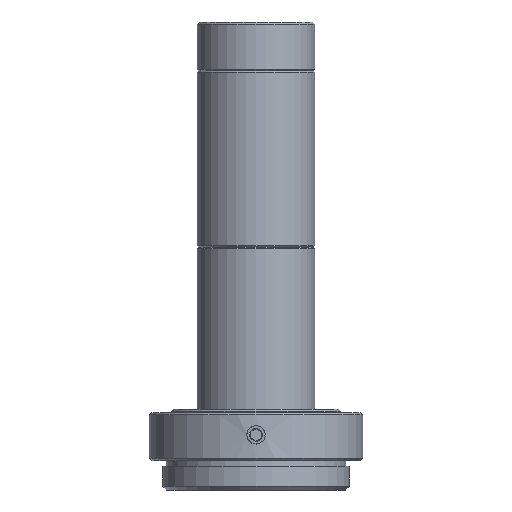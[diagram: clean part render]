
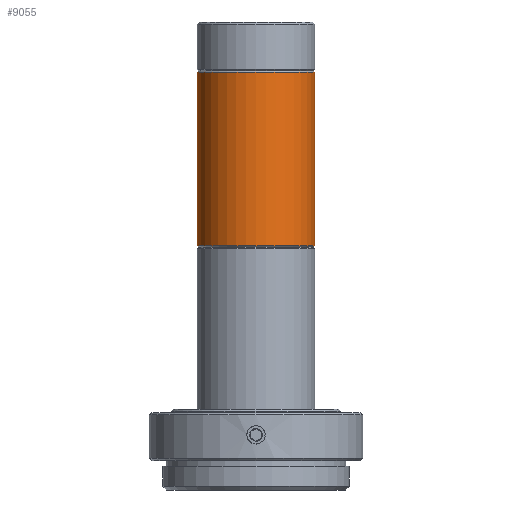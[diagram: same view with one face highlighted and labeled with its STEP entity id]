
A CAD part, front view. The second image highlights one B-rep face of the part: STEP entity #9055.
In plain terms, the highlighted cylindrical face has radius 8 mm (diameter 16 mm), a partial arc.
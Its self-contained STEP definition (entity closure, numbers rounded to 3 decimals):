
#464 = DIRECTION ( 'NONE',  ( 0., 0., -1. ) ) ;
#465 = CARTESIAN_POINT ( 'NONE',  ( -8., 0., 18.5 ) ) ;
#468 = LINE ( 'NONE', #465, #471 ) ;
#471 = VECTOR ( 'NONE', #464, 1000. ) ;
#970 = EDGE_CURVE ( 'NONE', #10849, #10796, #6759, .T. ) ;
#978 = EDGE_CURVE ( 'NONE', #10850, #10799, #6796, .T. ) ;
#5465 = CARTESIAN_POINT ( 'NONE',  ( 8., 0., 14.3 ) ) ;
#5651 = VECTOR ( 'NONE', #5711, 1000. ) ;
#5674 = CARTESIAN_POINT ( 'NONE',  ( -8., 0., -5.3 ) ) ;
#5694 = CARTESIAN_POINT ( 'NONE',  ( 8., 0., -5.3 ) ) ;
#5711 = DIRECTION ( 'NONE',  ( 0., 0., -1. ) ) ;
#5712 = CARTESIAN_POINT ( 'NONE',  ( 8., 0., 18.5 ) ) ;
#5721 = LINE ( 'NONE', #5712, #5651 ) ;
#6006 = CARTESIAN_POINT ( 'NONE',  ( -8., 0., 18.3 ) ) ;
#6013 = CARTESIAN_POINT ( 'NONE',  ( 8., 0., 18.3 ) ) ;
#6145 = CARTESIAN_POINT ( 'NONE',  ( -8., 0., 14.3 ) ) ;
#6190 = CARTESIAN_POINT ( 'NONE',  ( -8., 0., -1.3 ) ) ;
#6219 = CARTESIAN_POINT ( 'NONE',  ( 8., 0., -1.3 ) ) ;
#6741 = CARTESIAN_POINT ( 'NONE',  ( -8., 0., 18.5 ) ) ;
#6757 = DIRECTION ( 'NONE',  ( 0., 0., -1. ) ) ;
#6759 = LINE ( 'NONE', #6741, #6761 ) ;
#6761 = VECTOR ( 'NONE', #6757, 1000. ) ;
#6769 = DIRECTION ( 'NONE',  ( 0., 0., -1. ) ) ;
#6770 = VECTOR ( 'NONE', #6769, 1000. ) ;
#6771 = CARTESIAN_POINT ( 'NONE',  ( 8., 0., 18.5 ) ) ;
#6796 = LINE ( 'NONE', #6771, #6770 ) ;
#8961 = EDGE_CURVE ( 'NONE', #10804, #10803, #10978, .T. ) ;
#9000 = EDGE_CURVE ( 'NONE', #10796, #10799, #11038, .T. ) ;
#9003 = EDGE_CURVE ( 'NONE', #10816, #10850, #10581, .T. ) ;
#9007 = EDGE_CURVE ( 'NONE', #10849, #10814, #10602, .T. ) ;
#9035 = ORIENTED_EDGE ( 'NONE', *, *, #8961, .T. ) ;
#9036 = ORIENTED_EDGE ( 'NONE', *, *, #10791, .F. ) ;
#9046 = EDGE_LOOP ( 'NONE', ( #9036, #9035, #9057, #9069, #9059, #9047, #9056, #9065 ) ) ;
#9047 = ORIENTED_EDGE ( 'NONE', *, *, #9000, .T. ) ;
#9055 = ADVANCED_FACE ( 'NONE', ( #11137 ), #11122, .T. ) ;
#9056 = ORIENTED_EDGE ( 'NONE', *, *, #978, .F. ) ;
#9057 = ORIENTED_EDGE ( 'NONE', *, *, #10777, .T. ) ;
#9059 = ORIENTED_EDGE ( 'NONE', *, *, #970, .T. ) ;
#9065 = ORIENTED_EDGE ( 'NONE', *, *, #9003, .F. ) ;
#9069 = ORIENTED_EDGE ( 'NONE', *, *, #9007, .F. ) ;
#10557 = DIRECTION ( 'NONE',  ( 0., 0., 1. ) ) ;
#10559 = CARTESIAN_POINT ( 'NONE',  ( 8., 0., -1.5 ) ) ;
#10561 = VECTOR ( 'NONE', #10557, 1000. ) ;
#10569 = CARTESIAN_POINT ( 'NONE',  ( -8., 0., -1.5 ) ) ;
#10574 = VECTOR ( 'NONE', #10579, 1000. ) ;
#10579 = DIRECTION ( 'NONE',  ( 0., 0., -1. ) ) ;
#10581 = LINE ( 'NONE', #10559, #10574 ) ;
#10602 = LINE ( 'NONE', #10569, #10561 ) ;
#10777 = EDGE_CURVE ( 'NONE', #10803, #10814, #468, .T. ) ;
#10791 = EDGE_CURVE ( 'NONE', #10804, #10816, #5721, .T. ) ;
#10796 = VERTEX_POINT ( 'NONE', #5674 ) ;
#10799 = VERTEX_POINT ( 'NONE', #5694 ) ;
#10803 = VERTEX_POINT ( 'NONE', #6006 ) ;
#10804 = VERTEX_POINT ( 'NONE', #6013 ) ;
#10814 = VERTEX_POINT ( 'NONE', #6145 ) ;
#10816 = VERTEX_POINT ( 'NONE', #5465 ) ;
#10849 = VERTEX_POINT ( 'NONE', #6190 ) ;
#10850 = VERTEX_POINT ( 'NONE', #6219 ) ;
#10970 = CARTESIAN_POINT ( 'NONE',  ( 0., 0., 18.3 ) ) ;
#10978 = CIRCLE ( 'NONE', #10998, 8. ) ;
#10979 = DIRECTION ( 'NONE',  ( 1., 0., 0. ) ) ;
#10980 = DIRECTION ( 'NONE',  ( 0., 0., -1. ) ) ;
#10998 = AXIS2_PLACEMENT_3D ( 'NONE', #10970, #10980, #10979 ) ;
#11038 = CIRCLE ( 'NONE', #11042, 8. ) ;
#11042 = AXIS2_PLACEMENT_3D ( 'NONE', #11061, #11060, #11056 ) ;
#11056 = DIRECTION ( 'NONE',  ( 1., 0., 0. ) ) ;
#11060 = DIRECTION ( 'NONE',  ( 0., 0., 1. ) ) ;
#11061 = CARTESIAN_POINT ( 'NONE',  ( 0., 0., -5.3 ) ) ;
#11107 = CARTESIAN_POINT ( 'NONE',  ( 0., 0., 18.5 ) ) ;
#11122 = CYLINDRICAL_SURFACE ( 'NONE', #11156, 8. ) ;
#11137 = FACE_OUTER_BOUND ( 'NONE', #9046, .T. ) ;
#11153 = DIRECTION ( 'NONE',  ( -1., 0., 0. ) ) ;
#11154 = DIRECTION ( 'NONE',  ( 0., 0., -1. ) ) ;
#11156 = AXIS2_PLACEMENT_3D ( 'NONE', #11107, #11154, #11153 ) ;
